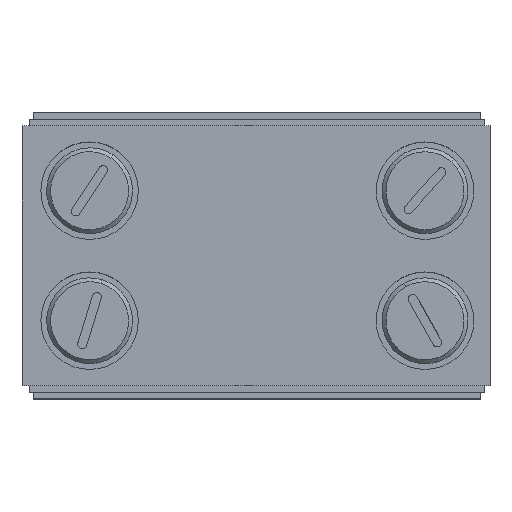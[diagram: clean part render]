
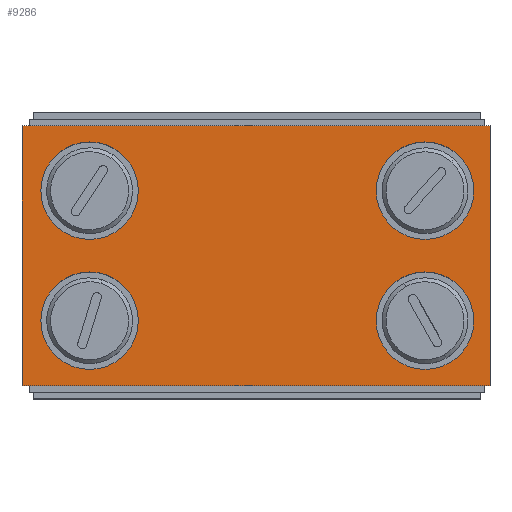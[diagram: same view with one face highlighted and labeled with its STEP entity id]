
A CAD part, top view. The second image highlights one B-rep face of the part: STEP entity #9286.
In plain terms, the highlighted planar face has unit normal (0, 0, 1).
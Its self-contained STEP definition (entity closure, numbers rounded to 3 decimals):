
#272 = AXIS2_PLACEMENT_3D ( 'NONE', #39094, #32409, #11862 ) ;
#533 = CARTESIAN_POINT ( 'NONE',  ( 17.53, 10., 10.8 ) ) ;
#755 = VECTOR ( 'NONE', #30002, 1000. ) ;
#2383 = DIRECTION ( 'NONE',  ( 0., 0., 1. ) ) ;
#2754 = EDGE_LOOP ( 'NONE', ( #41901, #7667 ) ) ;
#2879 = DIRECTION ( 'NONE',  ( 0., 1., 0. ) ) ;
#2939 = EDGE_CURVE ( 'NONE', #39160, #36464, #34601, .T. ) ;
#2989 = CIRCLE ( 'NONE', #19393, 3.75 ) ;
#3030 = CIRCLE ( 'NONE', #13728, 3.75 ) ;
#3638 = LINE ( 'NONE', #30882, #755 ) ;
#4263 = VERTEX_POINT ( 'NONE', #30500 ) ;
#4618 = EDGE_CURVE ( 'NONE', #37068, #39160, #3638, .T. ) ;
#5052 = CARTESIAN_POINT ( 'NONE',  ( -13.27, -5., 10.8 ) ) ;
#6104 = AXIS2_PLACEMENT_3D ( 'NONE', #5052, #35866, #18680 ) ;
#6470 = DIRECTION ( 'NONE',  ( 1., 0., 0. ) ) ;
#6934 = CARTESIAN_POINT ( 'NONE',  ( -18.47, -10., 10.8 ) ) ;
#7667 = ORIENTED_EDGE ( 'NONE', *, *, #17996, .F. ) ;
#7825 = DIRECTION ( 'NONE',  ( -1., 0., 0. ) ) ;
#8409 = VERTEX_POINT ( 'NONE', #39379 ) ;
#9286 = ADVANCED_FACE ( 'NONE', ( #41107, #10519, #13648, #13200, #9866 ), #10293, .F. ) ;
#9689 = ORIENTED_EDGE ( 'NONE', *, *, #10077, .F. ) ;
#9866 = FACE_OUTER_BOUND ( 'NONE', #11552, .T. ) ;
#10074 = EDGE_CURVE ( 'NONE', #33299, #30512, #37680, .T. ) ;
#10077 = EDGE_CURVE ( 'NONE', #34766, #8409, #23440, .T. ) ;
#10293 = PLANE ( 'NONE',  #39153 ) ;
#10519 = FACE_BOUND ( 'NONE', #2754, .T. ) ;
#10559 = VECTOR ( 'NONE', #2879, 1000. ) ;
#10820 = CARTESIAN_POINT ( 'NONE',  ( -9.52, -5., 10.8 ) ) ;
#10939 = ORIENTED_EDGE ( 'NONE', *, *, #4618, .T. ) ;
#10992 = CARTESIAN_POINT ( 'NONE',  ( 16.28, 5., 10.8 ) ) ;
#11322 = AXIS2_PLACEMENT_3D ( 'NONE', #32982, #2383, #38787 ) ;
#11510 = CARTESIAN_POINT ( 'NONE',  ( -9.52, 5., 10.8 ) ) ;
#11552 = EDGE_LOOP ( 'NONE', ( #12046, #37792, #40667, #10939 ) ) ;
#11862 = DIRECTION ( 'NONE',  ( 1., 0., 0. ) ) ;
#11923 = DIRECTION ( 'NONE',  ( 1., 0., 0. ) ) ;
#12046 = ORIENTED_EDGE ( 'NONE', *, *, #2939, .T. ) ;
#12680 = CARTESIAN_POINT ( 'NONE',  ( 12.53, 5., 10.8 ) ) ;
#13200 = FACE_BOUND ( 'NONE', #43382, .T. ) ;
#13648 = FACE_BOUND ( 'NONE', #23346, .T. ) ;
#13728 = AXIS2_PLACEMENT_3D ( 'NONE', #12680, #40595, #26303 ) ;
#14362 = VERTEX_POINT ( 'NONE', #10820 ) ;
#14749 = CARTESIAN_POINT ( 'NONE',  ( 8.78, 5., 10.8 ) ) ;
#14783 = VERTEX_POINT ( 'NONE', #10992 ) ;
#15612 = ORIENTED_EDGE ( 'NONE', *, *, #30544, .F. ) ;
#15655 = EDGE_LOOP ( 'NONE', ( #19161, #29393 ) ) ;
#15940 = LINE ( 'NONE', #35591, #29761 ) ;
#16508 = LINE ( 'NONE', #30576, #10559 ) ;
#17200 = DIRECTION ( 'NONE',  ( 0., -1., 0. ) ) ;
#17920 = VECTOR ( 'NONE', #17200, 1000. ) ;
#17996 = EDGE_CURVE ( 'NONE', #43617, #14783, #19518, .T. ) ;
#18449 = AXIS2_PLACEMENT_3D ( 'NONE', #21810, #35443, #18482 ) ;
#18482 = DIRECTION ( 'NONE',  ( 1., 0., 0. ) ) ;
#18680 = DIRECTION ( 'NONE',  ( 1., 0., 0. ) ) ;
#18929 = CIRCLE ( 'NONE', #41022, 3.75 ) ;
#19161 = ORIENTED_EDGE ( 'NONE', *, *, #30670, .F. ) ;
#19393 = AXIS2_PLACEMENT_3D ( 'NONE', #43568, #43132, #19484 ) ;
#19484 = DIRECTION ( 'NONE',  ( 1., 0., 0. ) ) ;
#19518 = CIRCLE ( 'NONE', #272, 3.75 ) ;
#20364 = EDGE_CURVE ( 'NONE', #30512, #33299, #2989, .T. ) ;
#21137 = CARTESIAN_POINT ( 'NONE',  ( 16.28, -5., 10.8 ) ) ;
#21810 = CARTESIAN_POINT ( 'NONE',  ( 12.53, -5., 10.8 ) ) ;
#21839 = ORIENTED_EDGE ( 'NONE', *, *, #20364, .F. ) ;
#23346 = EDGE_LOOP ( 'NONE', ( #9689, #15612 ) ) ;
#23440 = CIRCLE ( 'NONE', #18449, 3.75 ) ;
#23911 = CARTESIAN_POINT ( 'NONE',  ( 0., 0., 10.8 ) ) ;
#24448 = EDGE_CURVE ( 'NONE', #14783, #43617, #3030, .T. ) ;
#25332 = DIRECTION ( 'NONE',  ( 0., 0., 1. ) ) ;
#25647 = CARTESIAN_POINT ( 'NONE',  ( -18.47, -10., 10.8 ) ) ;
#26303 = DIRECTION ( 'NONE',  ( 1., 0., 0. ) ) ;
#27218 = CARTESIAN_POINT ( 'NONE',  ( -17.02, 5., 10.8 ) ) ;
#28017 = CARTESIAN_POINT ( 'NONE',  ( -13.27, -5., 10.8 ) ) ;
#29393 = ORIENTED_EDGE ( 'NONE', *, *, #36719, .F. ) ;
#29761 = VECTOR ( 'NONE', #11923, 1000. ) ;
#30002 = DIRECTION ( 'NONE',  ( -1., 0., 0. ) ) ;
#30500 = CARTESIAN_POINT ( 'NONE',  ( -17.02, -5., 10.8 ) ) ;
#30512 = VERTEX_POINT ( 'NONE', #27218 ) ;
#30544 = EDGE_CURVE ( 'NONE', #8409, #34766, #18929, .T. ) ;
#30576 = CARTESIAN_POINT ( 'NONE',  ( 17.53, -10., 10.8 ) ) ;
#30670 = EDGE_CURVE ( 'NONE', #14362, #4263, #33175, .T. ) ;
#30882 = CARTESIAN_POINT ( 'NONE',  ( -18.47, 10., 10.8 ) ) ;
#31909 = VERTEX_POINT ( 'NONE', #33640 ) ;
#32409 = DIRECTION ( 'NONE',  ( 0., 0., 1. ) ) ;
#32982 = CARTESIAN_POINT ( 'NONE',  ( -13.27, 5., 10.8 ) ) ;
#33175 = CIRCLE ( 'NONE', #6104, 3.75 ) ;
#33268 = CARTESIAN_POINT ( 'NONE',  ( 12.53, -5., 10.8 ) ) ;
#33299 = VERTEX_POINT ( 'NONE', #11510 ) ;
#33640 = CARTESIAN_POINT ( 'NONE',  ( 17.53, -10., 10.8 ) ) ;
#34507 = DIRECTION ( 'NONE',  ( 1., 0., 0. ) ) ;
#34601 = LINE ( 'NONE', #6934, #17920 ) ;
#34766 = VERTEX_POINT ( 'NONE', #21137 ) ;
#35407 = EDGE_CURVE ( 'NONE', #36464, #31909, #15940, .T. ) ;
#35443 = DIRECTION ( 'NONE',  ( 0., 0., 1. ) ) ;
#35591 = CARTESIAN_POINT ( 'NONE',  ( -18.47, -10., 10.8 ) ) ;
#35866 = DIRECTION ( 'NONE',  ( 0., 0., 1. ) ) ;
#36145 = CIRCLE ( 'NONE', #42538, 3.75 ) ;
#36464 = VERTEX_POINT ( 'NONE', #25647 ) ;
#36719 = EDGE_CURVE ( 'NONE', #4263, #14362, #36145, .T. ) ;
#37038 = DIRECTION ( 'NONE',  ( 0., 0., 1. ) ) ;
#37068 = VERTEX_POINT ( 'NONE', #533 ) ;
#37530 = DIRECTION ( 'NONE',  ( 0., 0., -1. ) ) ;
#37680 = CIRCLE ( 'NONE', #11322, 3.75 ) ;
#37754 = EDGE_CURVE ( 'NONE', #31909, #37068, #16508, .T. ) ;
#37792 = ORIENTED_EDGE ( 'NONE', *, *, #35407, .T. ) ;
#38787 = DIRECTION ( 'NONE',  ( 1., 0., 0. ) ) ;
#38958 = ORIENTED_EDGE ( 'NONE', *, *, #10074, .F. ) ;
#39094 = CARTESIAN_POINT ( 'NONE',  ( 12.53, 5., 10.8 ) ) ;
#39153 = AXIS2_PLACEMENT_3D ( 'NONE', #23911, #37530, #7825 ) ;
#39160 = VERTEX_POINT ( 'NONE', #42832 ) ;
#39379 = CARTESIAN_POINT ( 'NONE',  ( 8.78, -5., 10.8 ) ) ;
#40595 = DIRECTION ( 'NONE',  ( 0., 0., 1. ) ) ;
#40667 = ORIENTED_EDGE ( 'NONE', *, *, #37754, .T. ) ;
#41022 = AXIS2_PLACEMENT_3D ( 'NONE', #33268, #37038, #6470 ) ;
#41107 = FACE_BOUND ( 'NONE', #15655, .T. ) ;
#41901 = ORIENTED_EDGE ( 'NONE', *, *, #24448, .F. ) ;
#42538 = AXIS2_PLACEMENT_3D ( 'NONE', #28017, #25332, #34507 ) ;
#42832 = CARTESIAN_POINT ( 'NONE',  ( -18.47, 10., 10.8 ) ) ;
#43132 = DIRECTION ( 'NONE',  ( 0., 0., 1. ) ) ;
#43382 = EDGE_LOOP ( 'NONE', ( #38958, #21839 ) ) ;
#43568 = CARTESIAN_POINT ( 'NONE',  ( -13.27, 5., 10.8 ) ) ;
#43617 = VERTEX_POINT ( 'NONE', #14749 ) ;
